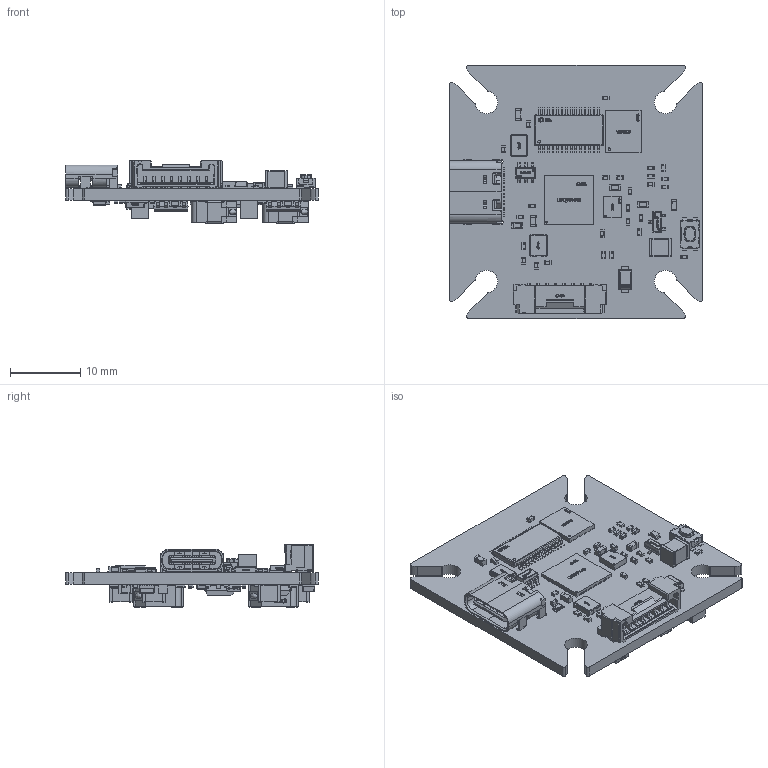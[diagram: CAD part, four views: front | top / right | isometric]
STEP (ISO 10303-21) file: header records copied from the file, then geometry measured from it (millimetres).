
FILE_DESCRIPTION(('KiCad electronic assembly'),'2;1');
FILE_NAME('ridge3-fc.step','2026-10-20T01:34:12',('Pcbnew'),('Kicad'), 'Open CASCADE STEP processor 7.6','KiCad to STEP converter','Unknown' );
FILE_SCHEMA(('AUTOMOTIVE_DESIGN { 1 0 10303 214 1 1 1 1 }'));
Length unit declared in the file: millimetre
Products named in the file (56): ridge3-fc 1; C_0603_1608Metric; OSC-SMD-2P_L3.2-W2.5-H0.8; LED0603-RD_1; SOT-23-3P_L2.9-W1.3-H1.0-LS2.4-P0.95; USB_C_Receptacle_GCT_USB4105-xx-A_16P_TopMnt_Horizontal; USB_C_Receptacle_16P_TopMnt_Horizontal_GCT_USB4105-xx-A; R_0402_1005Metric; C_0402_1005Metric; L_0402_1005Metric; TSSOP-28_L9.7-W4.4-P0.65-LS6.4-BL-EP-2; LGA-14_L2.5-W3.0-H0.9-P0.50; SMF_L2.8-W1.8-H1.0-LS3.7; UFQFPN-48_L7.0-W7.0-H0.6-P0.50; C_1210_3225Metric; SOT-23-6_L2.9-W1.6-H1.5-LS2.8-P0.95; WSON-8_L6.0-W5.0-H0.7-P1.27; CONN-SMD_8P-P1.25_5055670871; LED0603-R-RD_BLUE; SW_Push_1P1T-SH_NO_CK_KMR2xxG; CRYSTAL-SMD_4P-L3.2-W2.5-BL; OSC-SMD_L3.2-W1.5-H0.8; IND-SMD_L2.5-W2.0_TFM252012ALMA2R2MTAA; C_0805_2012Metric; SOT-583-8_L2.1-W1.6-P0.50-LS1.6-BL; IND-SMD_L7.1-W6.5-H3.0; SC-70-6_L2.0-W1.3-P0.65-LS2.1-BL; SOD-323HE_L2.0-W1.4-LS2.5-RD; ESOP-8_L4.9-W3.9-P1.27-LS6.0-BL-EP-1; SOT-563-6P_L1.6-W1.2-H0.6-LS1.6-P0.50; ridge3-fc_PCB
Assembly tree (122 placements, depth 3):
  ridge3-fc 1
    C_0603_1608Metric  x8
      C_0603_1608Metric
    OSC-SMD-2P_L3.2-W2.5-H0.8
      OSC-SMD-2P_L3.2-W2.5-H0.8
    LED0603-RD_1
      LED0603-RD_1
    SOT-23-3P_L2.9-W1.3-H1.0-LS2.4-P0.95
      SOT-23-3P_L2.9-W1.3-H1.0-LS2.4-P0.95
    USB_C_Receptacle_GCT_USB4105-xx-A_16P_TopMnt_Horizontal
      USB_C_Receptacle_16P_TopMnt_Horizontal_GCT_USB4105-xx-A
    R_0402_1005Metric  x32
      R_0402_1005Metric
    C_0402_1005Metric  x21
      C_0402_1005Metric
    L_0402_1005Metric
      L_0402_1005Metric
    TSSOP-28_L9.7-W4.4-P0.65-LS6.4-BL-EP-2
      TSSOP-28_L9.7-W4.4-P0.65-LS6.4-BL-EP-2
    LGA-14_L2.5-W3.0-H0.9-P0.50
      LGA-14_L2.5-W3.0-H0.9-P0.50
    SMF_L2.8-W1.8-H1.0-LS3.7  x2
      SMF_L2.8-W1.8-H1.0-LS3.7
    UFQFPN-48_L7.0-W7.0-H0.6-P0.50
      UFQFPN-48_L7.0-W7.0-H0.6-P0.50
    C_1210_3225Metric  x6
      C_1210_3225Metric
    SOT-23-6_L2.9-W1.6-H1.5-LS2.8-P0.95
      SOT-23-6_L2.9-W1.6-H1.5-LS2.8-P0.95
    WSON-8_L6.0-W5.0-H0.7-P1.27
      WSON-8_L6.0-W5.0-H0.7-P1.27
    CONN-SMD_8P-P1.25_5055670871
      CONN-SMD_8P-P1.25_5055670871
    LED0603-R-RD_BLUE
      LED0603-R-RD_BLUE
    SW_Push_1P1T-SH_NO_CK_KMR2xxG
      SW_Push_1P1T-SH_NO_CK_KMR2xxG
    CRYSTAL-SMD_4P-L3.2-W2.5-BL
      OSC-SMD_L3.2-W1.5-H0.8
    IND-SMD_L2.5-W2.0_TFM252012ALMA2R2MTAA
      IND-SMD_L2.5-W2.0_TFM252012ALMA2R2MTAA
    C_0805_2012Metric  x2
      C_0805_2012Metric
    SOT-583-8_L2.1-W1.6-P0.50-LS1.6-BL
      SOT-583-8_L2.1-W1.6-P0.50-LS1.6-BL
    IND-SMD_L7.1-W6.5-H3.0  x2
      IND-SMD_L7.1-W6.5-H3.0
    SC-70-6_L2.0-W1.3-P0.65-LS2.1-BL
      SC-70-6_L2.0-W1.3-P0.65-LS2.1-BL
    SOD-323HE_L2.0-W1.4-LS2.5-RD
      SOD-323HE_L2.0-W1.4-LS2.5-RD
    ESOP-8_L4.9-W3.9-P1.27-LS6.0-BL-EP-1  x2
      ESOP-8_L4.9-W3.9-P1.27-LS6.0-BL-EP-1
    SOT-563-6P_L1.6-W1.2-H0.6-LS1.6-P0.50
      SOT-563-6P_L1.6-W1.2-H0.6-LS1.6-P0.50
    ridge3-fc_PCB
Bounding box: 36 x 36 x 8.86 mm (x, y, z)
Volume: 2744.2 mm3; surface area: 5248.1 mm2
Topology: 278 solids, 278 shells, 12191 faces, 32359 edges, 21205 vertices
Faces by surface type: plane 7647, bspline 2653, cylinder 1636, sphere 105, torus 102, cone 48
Full cylindrical faces by diameter (mm): 0.5 x2, 0.65 x2
Entity records: 387495 total; most frequent: CARTESIAN_POINT 104880, ORIENTED_EDGE 49914, DIRECTION 36441, EDGE_CURVE 24957, LINE 18011, VECTOR 18011, VERTEX_POINT 16349, FACE_BOUND 9938
